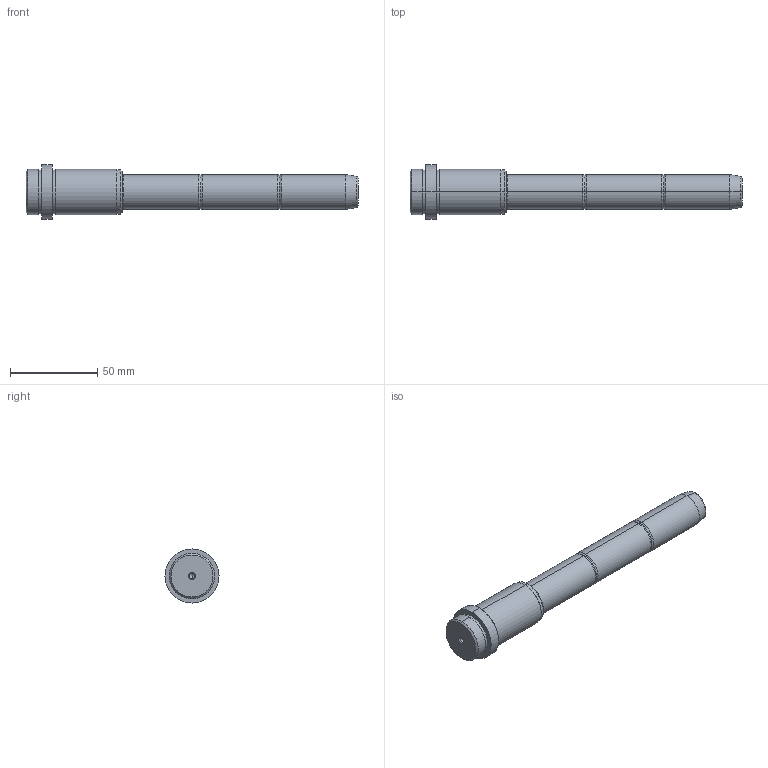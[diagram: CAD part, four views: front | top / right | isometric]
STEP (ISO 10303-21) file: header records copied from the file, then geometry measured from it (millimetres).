
FILE_DESCRIPTION( ( 'STEP AP203' ), '1' );
FILE_NAME( 'C:/Projects/D03 - 20x46x135.step', '2003-01-03T00:03:24', ( ' ' ), ( ' ' ), 'XStep 1.0', ' ', ' ' );
FILE_SCHEMA( ( 'CONFIG_CONTROL_DESIGN' ) );
Length unit declared in the file: metre
Products named in the file (1): 1
Bounding box: 190 x 31 x 31 mm (x, y, z)
Volume: 72561.7 mm3; surface area: 14567.5 mm2
Topology: 1 solids, 1 shells, 56 faces, 113 edges, 64 vertices
Faces by surface type: revolution 36, bspline 20
Entity records: 1691 total; most frequent: CARTESIAN_POINT 513, ORIENTED_EDGE 220, DIRECTION 218, EDGE_CURVE 110, AXIS2_PLACEMENT_3D 73, CIRCLE 72, EDGE_LOOP 64, VERTEX_POINT 64
